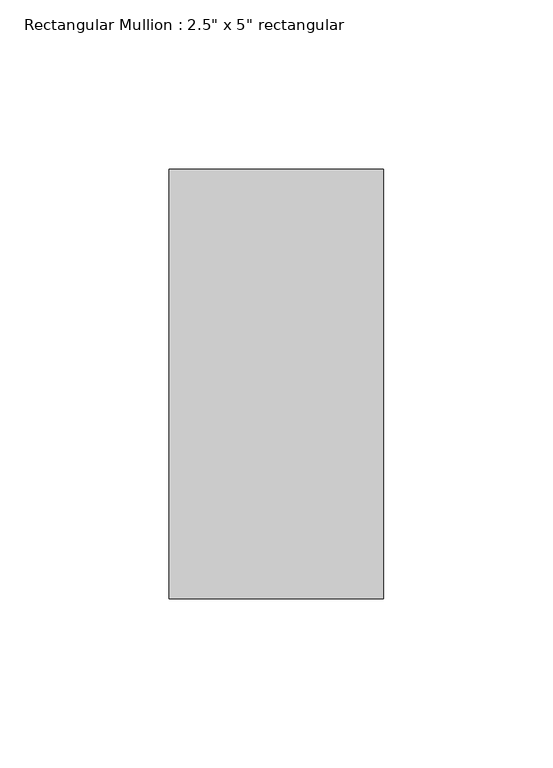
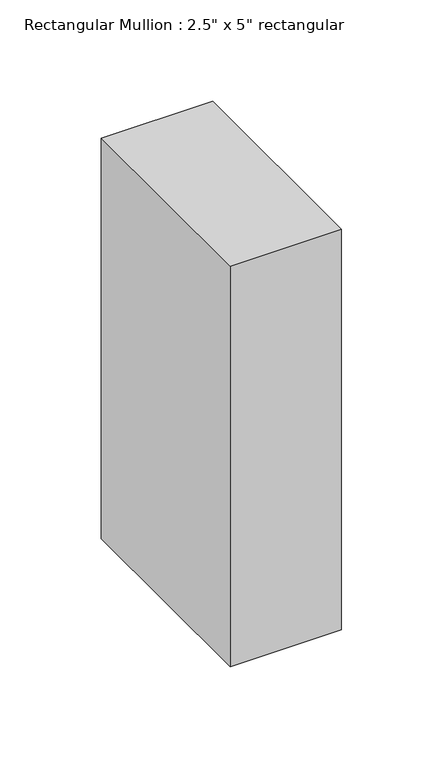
"""IFC4 building model written with IfcOpenShell, lengths in millimetres: member geometry."""

from ifc_helpers import new_model, si_unit, frame, origin, place, context, project, spatial, polyline, outline, extrude, source, transform, mapped, element, save


def member_aa396729(model_context):
    return source(origin(), model_context, "Body", "SweptSolid", [
        extrude(outline(polyline([(31.75, 63.5), (31.75, -63.5), (-31.75, -63.5), (-31.75, 63.5), (31.75, 63.5)])), frame((0.0, 0.0, -241.3), z_axis=(0.0, 0.0, 1.0), x_axis=(1.0, 0.0, 0.0)), (0.0, 0.0, 1.0), 241.3),
    ])


if __name__ == "__main__":
    model = new_model("IFC4")
    model_context = context("Model", 3, world=origin())
    ifc_project = project(units=[si_unit("LENGTHUNIT", "METRE", prefix="MILLI")], contexts=[model_context])
    site = spatial("IfcSite", under=ifc_project)
    building = spatial("IfcBuilding", under=site)
    placement = place(None, origin())
    member_shape = member_aa396729(model_context)
    element("IfcMember", 1, ObjectType="Rectangular Mullion : 2.5\" x 5\" rectangular", at=placement, inside=building, context=model_context, shape_type="MappedRepresentation", body=[
        mapped(member_shape, transform((0.0, 0.0, 0.0), x_axis=(1.0, 0.0, 0.0), y_axis=(0.0, 1.0, 0.0), z_axis=(0.0, 0.0, 1.0))),
    ])
    save(model, "model.ifc")
